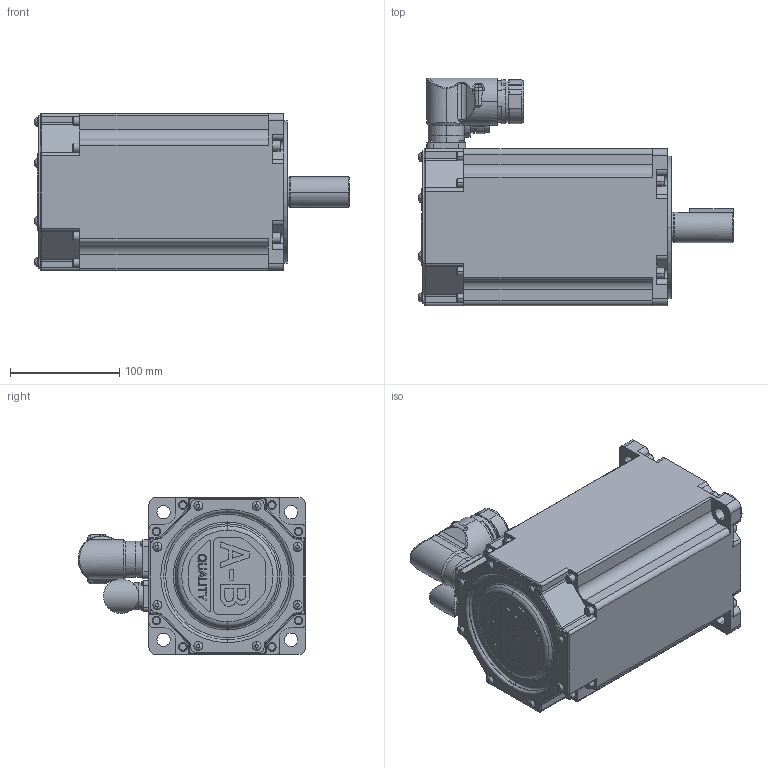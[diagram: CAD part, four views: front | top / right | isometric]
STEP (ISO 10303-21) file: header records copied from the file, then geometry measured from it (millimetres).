
FILE_DESCRIPTION (( 'STEP AP214' ), '1' );
FILE_NAME ('Rockwell Automation-MPL-A520x-xJ74AA.STEP', '2015-07-08T13:22:42', ( 'Windows User' ), ( '' ), 'SwSTEP 2.0', 'SolidWorks 2015', '' );
FILE_SCHEMA (( 'AUTOMOTIVE_DESIGN' ));
Length unit declared in the file: inch
Products named in the file (5): Rockwell Automation-MPL-A520x-xJ74AA_MPL-5xx-Encoder Connector; Rockwell Automation-MPL-A520x-xJ74AA_MPL-5xx-Power Connector-M40; Rockwell Automation-MPL-A520x-xJ74AA_MPL-5xx-Shaft_520-SHAFT-KEYED-BRAKE; Rockwell Automation-MPL-A520x-xJ74AA_MPL-5xx-body_A520-BRAKE; Rockwell Automation-MPL-A520x-xJ74AA
Assembly tree (4 placements, depth 2):
  Rockwell Automation-MPL-A520x-xJ74AA
    Rockwell Automation-MPL-A520x-xJ74AA_MPL-5xx-body_A520-BRAKE
    Rockwell Automation-MPL-A520x-xJ74AA_MPL-5xx-Shaft_520-SHAFT-KEYED-BRAKE
    Rockwell Automation-MPL-A520x-xJ74AA_MPL-5xx-Power Connector-M40
    Rockwell Automation-MPL-A520x-xJ74AA_MPL-5xx-Encoder Connector
Bounding box: 287.78 x 208.24 x 143.51 mm (x, y, z)
Volume: 1798565.8 mm3; surface area: 360587.1 mm2
Topology: 5 solids, 5 shells, 1039 faces, 2541 edges, 1619 vertices
Faces by surface type: plane 422, cylinder 376, torus 114, cone 80, bspline 47
Entity records: 35767 total; most frequent: CARTESIAN_POINT 8999, DIRECTION 5439, ORIENTED_EDGE 5074, EDGE_CURVE 2537, AXIS2_PLACEMENT_3D 2063, VERTEX_POINT 1619, VECTOR 1313, LINE 1313
